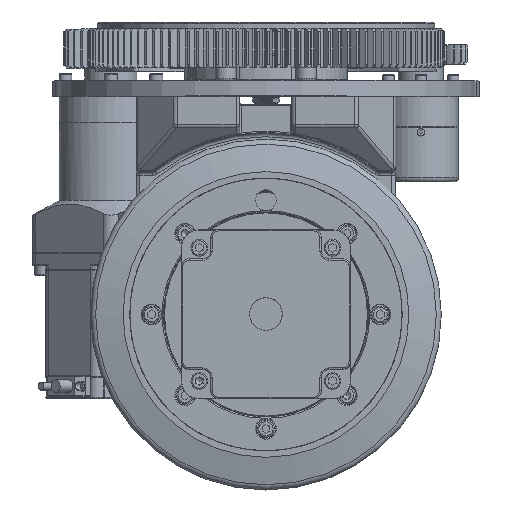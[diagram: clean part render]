
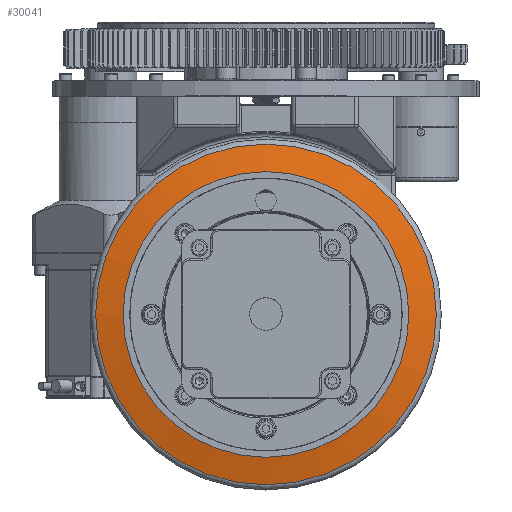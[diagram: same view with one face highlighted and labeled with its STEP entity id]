
A CAD part, top view. The second image highlights one B-rep face of the part: STEP entity #30041.
In plain terms, the highlighted conical face has half-angle 77 degrees and reference radius 110 mm.
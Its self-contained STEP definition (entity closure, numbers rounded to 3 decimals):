
#2432 = EDGE_LOOP ( 'NONE', ( #40973 ) ) ;
#8642 = EDGE_CURVE ( 'NONE', #121619, #121619, #72100, .T. ) ;
#9853 = VERTEX_POINT ( 'NONE', #33338 ) ;
#12379 = EDGE_LOOP ( 'NONE', ( #73936 ) ) ;
#20733 = CARTESIAN_POINT ( 'NONE',  ( 31.125, -200.5, 87.123 ) ) ;
#30041 = ADVANCED_FACE ( 'NONE', ( #114199, #117190 ), #66273, .T. ) ;
#33225 = DIRECTION ( 'NONE',  ( 0., 0., -1. ) ) ;
#33338 = CARTESIAN_POINT ( 'NONE',  ( -210., -200.5, 92. ) ) ;
#37519 = CARTESIAN_POINT ( 'NONE',  ( -100., -200.5, 87.123 ) ) ;
#40973 = ORIENTED_EDGE ( 'NONE', *, *, #86851, .T. ) ;
#47199 = DIRECTION ( 'NONE',  ( 0., 0., -1. ) ) ;
#52469 = AXIS2_PLACEMENT_3D ( 'NONE', #37519, #96705, #115895 ) ;
#54695 = AXIS2_PLACEMENT_3D ( 'NONE', #56497, #47199, #85932 ) ;
#56497 = CARTESIAN_POINT ( 'NONE',  ( -100., -200.5, 92. ) ) ;
#66273 = CONICAL_SURFACE ( 'NONE', #54695, 110., 1.344 ) ;
#67168 = AXIS2_PLACEMENT_3D ( 'NONE', #101651, #33225, #81966 ) ;
#68560 = CIRCLE ( 'NONE', #67168, 110. ) ;
#72100 = CIRCLE ( 'NONE', #52469, 131.125 ) ;
#73936 = ORIENTED_EDGE ( 'NONE', *, *, #8642, .T. ) ;
#81966 = DIRECTION ( 'NONE',  ( -1., 0., 0. ) ) ;
#85932 = DIRECTION ( 'NONE',  ( -1., 0., 0. ) ) ;
#86851 = EDGE_CURVE ( 'NONE', #9853, #9853, #68560, .T. ) ;
#96705 = DIRECTION ( 'NONE',  ( 0., 0., 1. ) ) ;
#101651 = CARTESIAN_POINT ( 'NONE',  ( -100., -200.5, 92. ) ) ;
#114199 = FACE_OUTER_BOUND ( 'NONE', #12379, .T. ) ;
#115895 = DIRECTION ( 'NONE',  ( 1., 0., 0. ) ) ;
#117190 = FACE_BOUND ( 'NONE', #2432, .T. ) ;
#121619 = VERTEX_POINT ( 'NONE', #20733 ) ;
